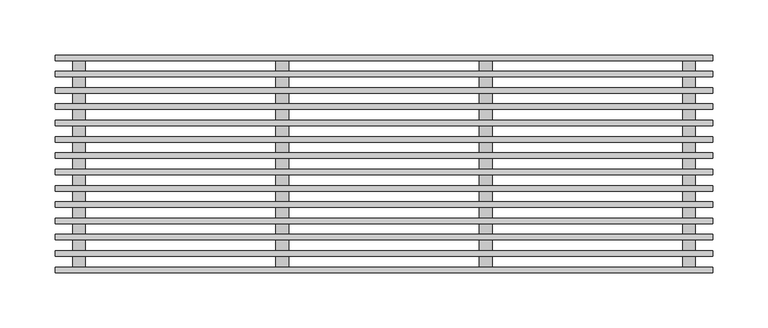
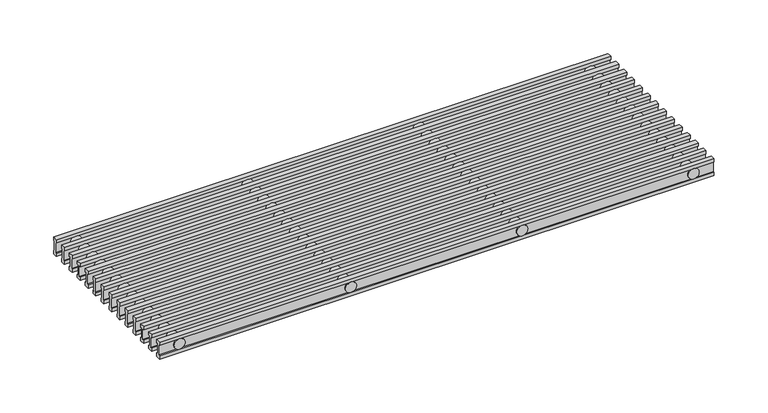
"""IFC4 building model written with IfcOpenShell, lengths in millimetres: proxy geometry, ♦ : РАП_Алюминиевая продольная/ Белый RAL 9016."""

from ifc_helpers import new_model, si_unit, point, frame, frame_2d, origin, place, context, project, spatial, polyline, circle_curve, trimmed, segment, composite_curve, outline, extrude, source, transform, mapped, element, save


def mechanical_equipment_e06667c6(model_context):
    return source(origin(), model_context, "Body", "SweptSolid", [
        extrude(outline(polyline([(-78.9846154, 0.0), (-78.9846154, -3.86), (-80.2346154, -3.86), (-80.2346154, -15.44), (-78.9846154, -15.44), (-78.9846154, -19.3), (-83.9846154, -19.3), (-83.9846154, -15.44), (-82.7346154, -15.44), (-82.7346154, -3.86), (-83.9846154, -3.86), (-83.9846154, 0.0), (-78.9846154, 0.0)])), frame((1.2, 0.0, 0.0), z_axis=(1.0, 0.0, 0.0), x_axis=(0.0, 1.0, 0.0)), (0.0, 0.0, 1.0), 597.6),
        extrude(outline(polyline([(-64.1692308, 0.0), (-64.1692308, -3.86), (-65.4192308, -3.86), (-65.4192308, -15.44), (-64.1692308, -15.44), (-64.1692308, -19.3), (-69.1692308, -19.3), (-69.1692308, -15.44), (-67.9192308, -15.44), (-67.9192308, -3.86), (-69.1692308, -3.86), (-69.1692308, 0.0), (-64.1692308, 0.0)])), frame((1.2, 0.0, 0.0), z_axis=(1.0, 0.0, 0.0), x_axis=(0.0, 1.0, 0.0)), (0.0, 0.0, 1.0), 597.6),
        extrude(outline(polyline([(-49.3538462, 0.0), (-49.3538462, -3.86), (-50.6038462, -3.86), (-50.6038462, -15.44), (-49.3538462, -15.44), (-49.3538462, -19.3), (-54.3538462, -19.3), (-54.3538462, -15.44), (-53.1038462, -15.44), (-53.1038462, -3.86), (-54.3538462, -3.86), (-54.3538462, 0.0), (-49.3538462, 0.0)])), frame((1.2, 0.0, 0.0), z_axis=(1.0, 0.0, 0.0), x_axis=(0.0, 1.0, 0.0)), (0.0, 0.0, 1.0), 597.6),
        extrude(outline(polyline([(-34.5384615, 0.0), (-34.5384615, -3.86), (-35.7884615, -3.86), (-35.7884615, -15.44), (-34.5384615, -15.44), (-34.5384615, -19.3), (-39.5384615, -19.3), (-39.5384615, -15.44), (-38.2884615, -15.44), (-38.2884615, -3.86), (-39.5384615, -3.86), (-39.5384615, 0.0), (-34.5384615, 0.0)])), frame((1.2, 0.0, 0.0), z_axis=(1.0, 0.0, 0.0), x_axis=(0.0, 1.0, 0.0)), (0.0, 0.0, 1.0), 597.6),
        extrude(outline(polyline([(-19.7230769, 0.0), (-19.7230769, -3.86), (-20.9730769, -3.86), (-20.9730769, -15.44), (-19.7230769, -15.44), (-19.7230769, -19.3), (-24.7230769, -19.3), (-24.7230769, -15.44), (-23.4730769, -15.44), (-23.4730769, -3.86), (-24.7230769, -3.86), (-24.7230769, 0.0), (-19.7230769, 0.0)])), frame((1.2, 0.0, 0.0), z_axis=(1.0, 0.0, 0.0), x_axis=(0.0, 1.0, 0.0)), (0.0, 0.0, 1.0), 597.6),
        extrude(outline(polyline([(-4.9076923, 0.0), (-4.9076923, -3.86), (-6.1576923, -3.86), (-6.1576923, -15.44), (-4.9076923, -15.44), (-4.9076923, -19.3), (-9.9076923, -19.3), (-9.9076923, -15.44), (-8.6576923, -15.44), (-8.6576923, -3.86), (-9.9076923, -3.86), (-9.9076923, 0.0), (-4.9076923, 0.0)])), frame((1.2, 0.0, 0.0), z_axis=(1.0, 0.0, 0.0), x_axis=(0.0, 1.0, 0.0)), (0.0, 0.0, 1.0), 597.6),
        extrude(outline(composite_curve([segment(trimmed(circle_curve(frame_2d((-9.6, 392.3333333)), 5.8), [point((-9.6, 386.5333333))], [point((-9.6, 398.1333333))], False, "CARTESIAN"), True, "CONTINUOUS"), segment(trimmed(circle_curve(frame_2d((-9.6, 392.3333333)), 5.8), [point((-9.6, 398.1333333))], [point((-9.6, 386.5333333))], False, "CARTESIAN"), True, "CONTINUOUS")], self_intersect=False)), frame((0.0, -98.8, 0.0), z_axis=(0.0, 1.0, 0.0), x_axis=(0.0, 0.0, 1.0)), (0.0, 0.0, 1.0), 197.6),
        extrude(outline(composite_curve([segment(trimmed(circle_curve(frame_2d((-9.6, 207.6666667)), 5.8), [point((-9.6, 201.8666667))], [point((-9.6, 213.4666667))], False, "CARTESIAN"), True, "CONTINUOUS"), segment(trimmed(circle_curve(frame_2d((-9.6, 207.6666667)), 5.8), [point((-9.6, 213.4666667))], [point((-9.6, 201.8666667))], False, "CARTESIAN"), True, "CONTINUOUS")], self_intersect=False)), frame((0.0, -98.8, 0.0), z_axis=(0.0, 1.0, 0.0), x_axis=(0.0, 0.0, 1.0)), (0.0, 0.0, 1.0), 197.6),
        extrude(outline(composite_curve([segment(trimmed(circle_curve(frame_2d((-9.6, 577.0)), 5.8), [point((-9.6, 571.2))], [point((-9.6, 582.8))], False, "CARTESIAN"), True, "CONTINUOUS"), segment(trimmed(circle_curve(frame_2d((-9.6, 577.0)), 5.8), [point((-9.6, 582.8))], [point((-9.6, 571.2))], False, "CARTESIAN"), True, "CONTINUOUS")], self_intersect=False)), frame((0.0, -98.8, 0.0), z_axis=(0.0, 1.0, 0.0), x_axis=(0.0, 0.0, 1.0)), (0.0, 0.0, 1.0), 197.6),
        extrude(outline(composite_curve([segment(trimmed(circle_curve(frame_2d((-9.6, 23.0)), 5.8), [point((-9.6, 17.2))], [point((-9.6, 28.8))], False, "CARTESIAN"), True, "CONTINUOUS"), segment(trimmed(circle_curve(frame_2d((-9.6, 23.0)), 5.8), [point((-9.6, 28.8))], [point((-9.6, 17.2))], False, "CARTESIAN"), True, "CONTINUOUS")], self_intersect=False)), frame((0.0, -98.8, 0.0), z_axis=(0.0, 1.0, 0.0), x_axis=(0.0, 0.0, 1.0)), (0.0, 0.0, 1.0), 197.6),
        extrude(outline(polyline([(9.9076923, 0.0), (9.9076923, -3.86), (8.6576923, -3.86), (8.6576923, -15.44), (9.9076923, -15.44), (9.9076923, -19.3), (4.9076923, -19.3), (4.9076923, -15.44), (6.1576923, -15.44), (6.1576923, -3.86), (4.9076923, -3.86), (4.9076923, 0.0), (9.9076923, 0.0)])), frame((1.2, 0.0, 0.0), z_axis=(1.0, 0.0, 0.0), x_axis=(0.0, 1.0, 0.0)), (0.0, 0.0, 1.0), 597.6),
        extrude(outline(polyline([(24.7230769, 0.0), (24.7230769, -3.86), (23.4730769, -3.86), (23.4730769, -15.44), (24.7230769, -15.44), (24.7230769, -19.3), (19.7230769, -19.3), (19.7230769, -15.44), (20.9730769, -15.44), (20.9730769, -3.86), (19.7230769, -3.86), (19.7230769, 0.0), (24.7230769, 0.0)])), frame((1.2, 0.0, 0.0), z_axis=(1.0, 0.0, 0.0), x_axis=(0.0, 1.0, 0.0)), (0.0, 0.0, 1.0), 597.6),
        extrude(outline(polyline([(39.5384615, 0.0), (39.5384615, -3.86), (38.2884615, -3.86), (38.2884615, -15.44), (39.5384615, -15.44), (39.5384615, -19.3), (34.5384615, -19.3), (34.5384615, -15.44), (35.7884615, -15.44), (35.7884615, -3.86), (34.5384615, -3.86), (34.5384615, 0.0), (39.5384615, 0.0)])), frame((1.2, 0.0, 0.0), z_axis=(1.0, 0.0, 0.0), x_axis=(0.0, 1.0, 0.0)), (0.0, 0.0, 1.0), 597.6),
        extrude(outline(polyline([(54.3538462, 0.0), (54.3538462, -3.86), (53.1038462, -3.86), (53.1038462, -15.44), (54.3538462, -15.44), (54.3538462, -19.3), (49.3538462, -19.3), (49.3538462, -15.44), (50.6038462, -15.44), (50.6038462, -3.86), (49.3538462, -3.86), (49.3538462, 0.0), (54.3538462, 0.0)])), frame((1.2, 0.0, 0.0), z_axis=(1.0, 0.0, 0.0), x_axis=(0.0, 1.0, 0.0)), (0.0, 0.0, 1.0), 597.6),
        extrude(outline(polyline([(69.1692308, 0.0), (69.1692308, -3.86), (67.9192308, -3.86), (67.9192308, -15.44), (69.1692308, -15.44), (69.1692308, -19.3), (64.1692308, -19.3), (64.1692308, -15.44), (65.4192308, -15.44), (65.4192308, -3.86), (64.1692308, -3.86), (64.1692308, 0.0), (69.1692308, 0.0)])), frame((1.2, 0.0, 0.0), z_axis=(1.0, 0.0, 0.0), x_axis=(0.0, 1.0, 0.0)), (0.0, 0.0, 1.0), 597.6),
        extrude(outline(polyline([(83.9846154, 0.0), (83.9846154, -3.86), (82.7346154, -3.86), (82.7346154, -15.44), (83.9846154, -15.44), (83.9846154, -19.3), (78.9846154, -19.3), (78.9846154, -15.44), (80.2346154, -15.44), (80.2346154, -3.86), (78.9846154, -3.86), (78.9846154, 0.0), (83.9846154, 0.0)])), frame((1.2, 0.0, 0.0), z_axis=(1.0, 0.0, 0.0), x_axis=(0.0, 1.0, 0.0)), (0.0, 0.0, 1.0), 597.6),
        extrude(outline(polyline([(-93.8, 0.0), (-93.8, -3.86), (-95.05, -3.86), (-95.05, -15.44), (-93.8, -15.44), (-93.8, -19.3), (-98.8, -19.3), (-98.8, -15.44), (-97.55, -15.44), (-97.55, -3.86), (-98.8, -3.86), (-98.8, 0.0), (-93.8, 0.0)])), frame((1.2, 0.0, 0.0), z_axis=(1.0, 0.0, 0.0), x_axis=(0.0, 1.0, 0.0)), (0.0, 0.0, 1.0), 597.6),
        extrude(outline(polyline([(98.8, 0.0), (98.8, -3.86), (97.55, -3.86), (97.55, -15.44), (98.8, -15.44), (98.8, -19.3), (93.8, -19.3), (93.8, -15.44), (95.05, -15.44), (95.05, -3.86), (93.8, -3.86), (93.8, 0.0), (98.8, 0.0)])), frame((1.2, 0.0, 0.0), z_axis=(1.0, 0.0, 0.0), x_axis=(0.0, 1.0, 0.0)), (0.0, 0.0, 1.0), 597.6),
    ])


if __name__ == "__main__":
    model = new_model("IFC4")
    model_context = context("Model", 3, world=origin())
    ifc_project = project(units=[si_unit("LENGTHUNIT", "METRE", prefix="MILLI")], contexts=[model_context])
    site = spatial("IfcSite", under=ifc_project)
    building = spatial("IfcBuilding", under=site)
    placement = place(None, origin())
    mechanical_equipment_shape = mechanical_equipment_e06667c6(model_context)
    element("IfcBuildingElementProxy", 1, Name="♦ : РАП_Алюминиевая продольная/ Белый RAL 9016", ObjectType="♦ : РАП_Алюминиевая продольная/ Белый RAL 9016", at=placement, inside=building, context=model_context, shape_type="MappedRepresentation", body=[
        mapped(mechanical_equipment_shape, transform((0.0, 0.0, 0.0), x_axis=(1.0, 0.0, 0.0), y_axis=(0.0, 1.0, 0.0), z_axis=(0.0, 0.0, 1.0))),
    ])
    save(model, "model.ifc")
